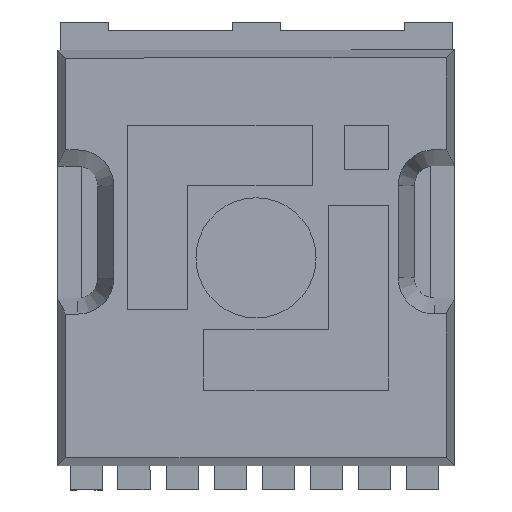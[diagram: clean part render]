
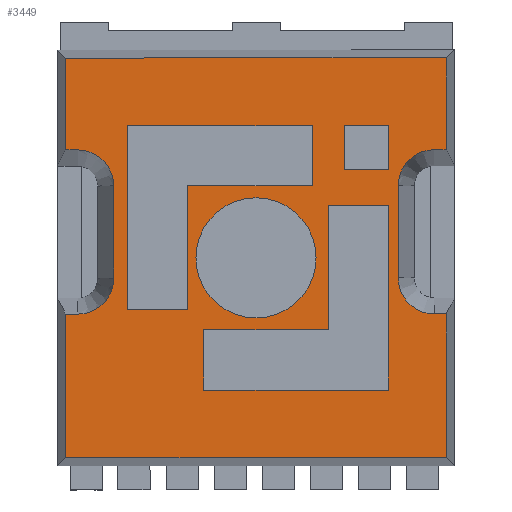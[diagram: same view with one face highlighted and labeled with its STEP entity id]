
A CAD part, top view. The second image highlights one B-rep face of the part: STEP entity #3449.
In plain terms, the highlighted planar face has unit normal (0, 0, 1).
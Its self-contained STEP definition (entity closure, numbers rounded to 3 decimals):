
#3165=CARTESIAN_POINT('',(0.,0.,2.3));
#3166=DIRECTION('',(0.,0.,1.));
#3167=DIRECTION('',(1.,0.,0.));
#3168=AXIS2_PLACEMENT_3D('',#3165,#3166,#3167);
#3169=PLANE('',#3168);
#3170=CARTESIAN_POINT('',(2.2,2.2,2.3));
#3171=VERTEX_POINT('',#3170);
#3172=CARTESIAN_POINT('',(3.3,2.2,2.3));
#3173=VERTEX_POINT('',#3172);
#3174=CARTESIAN_POINT('',(2.2,2.2,2.3));
#3175=DIRECTION('',(1.,0.,-0.));
#3176=VECTOR('',#3175,1.1);
#3177=LINE('',#3174,#3176);
#3178=EDGE_CURVE('',#3171,#3173,#3177,.T.);
#3179=ORIENTED_EDGE('',*,*,#3178,.F.);
#3180=CARTESIAN_POINT('',(2.2,3.3,2.3));
#3181=VERTEX_POINT('',#3180);
#3182=CARTESIAN_POINT('',(2.2,3.3,2.3));
#3183=DIRECTION('',(0.,-1.,0.));
#3184=VECTOR('',#3183,1.1);
#3185=LINE('',#3182,#3184);
#3186=EDGE_CURVE('',#3181,#3171,#3185,.T.);
#3187=ORIENTED_EDGE('',*,*,#3186,.F.);
#3188=CARTESIAN_POINT('',(3.3,3.3,2.3));
#3189=VERTEX_POINT('',#3188);
#3190=CARTESIAN_POINT('',(3.3,3.3,2.3));
#3191=DIRECTION('',(-1.,0.,0.));
#3192=VECTOR('',#3191,1.1);
#3193=LINE('',#3190,#3192);
#3194=EDGE_CURVE('',#3189,#3181,#3193,.T.);
#3195=ORIENTED_EDGE('',*,*,#3194,.F.);
#3196=CARTESIAN_POINT('',(3.3,2.2,2.3));
#3197=DIRECTION('',(0.,1.,0.));
#3198=VECTOR('',#3197,1.1);
#3199=LINE('',#3196,#3198);
#3200=EDGE_CURVE('',#3173,#3189,#3199,.T.);
#3201=ORIENTED_EDGE('',*,*,#3200,.F.);
#3202=EDGE_LOOP('',(#3179,#3187,#3195,#3201));
#3203=FACE_BOUND('',#3202,.T.);
#3204=CARTESIAN_POINT('',(1.5,-0.,2.3));
#3205=VERTEX_POINT('',#3204);
#3206=CARTESIAN_POINT('',(0.,0.,2.3));
#3207=DIRECTION('',(0.,0.,1.));
#3208=DIRECTION('',(1.,0.,-0.));
#3209=AXIS2_PLACEMENT_3D('',#3206,#3207,#3208);
#3210=CIRCLE('',#3209,1.5);
#3211=EDGE_CURVE('',#3205,#3205,#3210,.T.);
#3212=ORIENTED_EDGE('',*,*,#3211,.F.);
#3213=EDGE_LOOP('',(#3212));
#3214=FACE_BOUND('',#3213,.T.);
#3215=CARTESIAN_POINT('',(-3.553,1.796,2.3));
#3216=VERTEX_POINT('',#3215);
#3217=CARTESIAN_POINT('',(-3.55,-0.504,2.3));
#3218=VERTEX_POINT('',#3217);
#3219=CARTESIAN_POINT('',(-3.553,1.796,2.3));
#3220=DIRECTION('',(0.001,-1.,0.));
#3221=VECTOR('',#3220,2.3);
#3222=LINE('',#3219,#3221);
#3223=EDGE_CURVE('',#3216,#3218,#3222,.T.);
#3224=ORIENTED_EDGE('',*,*,#3223,.T.);
#3225=CARTESIAN_POINT('',(-4.449,-1.405,2.3));
#3226=VERTEX_POINT('',#3225);
#3227=CARTESIAN_POINT('',(-4.45,-0.505,2.3));
#3228=DIRECTION('',(-0.,-0.,-1.));
#3229=DIRECTION('',(1.,0.,-0.));
#3230=AXIS2_PLACEMENT_3D('',#3227,#3228,#3229);
#3231=CIRCLE('',#3230,0.9);
#3232=EDGE_CURVE('',#3218,#3226,#3231,.T.);
#3233=ORIENTED_EDGE('',*,*,#3232,.T.);
#3234=CARTESIAN_POINT('',(-4.749,-1.405,2.3));
#3235=VERTEX_POINT('',#3234);
#3236=CARTESIAN_POINT('',(-4.449,-1.405,2.3));
#3237=DIRECTION('',(-1.,-0.001,0.));
#3238=VECTOR('',#3237,0.3);
#3239=LINE('',#3236,#3238);
#3240=EDGE_CURVE('',#3226,#3235,#3239,.T.);
#3241=ORIENTED_EDGE('',*,*,#3240,.T.);
#3242=CARTESIAN_POINT('',(-4.747,-4.993,2.3));
#3243=VERTEX_POINT('',#3242);
#3244=CARTESIAN_POINT('',(-4.749,-1.405,2.3));
#3245=DIRECTION('',(0.001,-1.,0.));
#3246=VECTOR('',#3245,3.587);
#3247=LINE('',#3244,#3246);
#3248=EDGE_CURVE('',#3235,#3243,#3247,.T.);
#3249=ORIENTED_EDGE('',*,*,#3248,.T.);
#3250=CARTESIAN_POINT('',(4.753,-4.987,2.3));
#3251=VERTEX_POINT('',#3250);
#3252=CARTESIAN_POINT('',(-4.747,-4.993,2.3));
#3253=DIRECTION('',(1.,0.001,0.));
#3254=VECTOR('',#3253,9.5);
#3255=LINE('',#3252,#3254);
#3256=EDGE_CURVE('',#3243,#3251,#3255,.T.);
#3257=ORIENTED_EDGE('',*,*,#3256,.T.);
#3258=CARTESIAN_POINT('',(4.751,-1.4,2.3));
#3259=VERTEX_POINT('',#3258);
#3260=CARTESIAN_POINT('',(4.753,-4.987,2.3));
#3261=DIRECTION('',(-0.001,1.,0.));
#3262=VECTOR('',#3261,3.587);
#3263=LINE('',#3260,#3262);
#3264=EDGE_CURVE('',#3251,#3259,#3263,.T.);
#3265=ORIENTED_EDGE('',*,*,#3264,.T.);
#3266=CARTESIAN_POINT('',(4.451,-1.4,2.3));
#3267=VERTEX_POINT('',#3266);
#3268=CARTESIAN_POINT('',(4.751,-1.4,2.3));
#3269=DIRECTION('',(-1.,0.,0.));
#3270=VECTOR('',#3269,0.3);
#3271=LINE('',#3268,#3270);
#3272=EDGE_CURVE('',#3259,#3267,#3271,.T.);
#3273=ORIENTED_EDGE('',*,*,#3272,.T.);
#3274=CARTESIAN_POINT('',(3.551,-0.5,2.3));
#3275=VERTEX_POINT('',#3274);
#3276=CARTESIAN_POINT('',(4.451,-0.5,2.3));
#3277=DIRECTION('',(-0.,-0.,-1.));
#3278=DIRECTION('',(1.,0.,-0.));
#3279=AXIS2_PLACEMENT_3D('',#3276,#3277,#3278);
#3280=CIRCLE('',#3279,0.9);
#3281=EDGE_CURVE('',#3267,#3275,#3280,.T.);
#3282=ORIENTED_EDGE('',*,*,#3281,.T.);
#3283=CARTESIAN_POINT('',(3.551,1.8,2.3));
#3284=VERTEX_POINT('',#3283);
#3285=CARTESIAN_POINT('',(3.551,-0.5,2.3));
#3286=DIRECTION('',(0.,1.,0.));
#3287=VECTOR('',#3286,2.3);
#3288=LINE('',#3285,#3287);
#3289=EDGE_CURVE('',#3275,#3284,#3288,.T.);
#3290=ORIENTED_EDGE('',*,*,#3289,.T.);
#3291=CARTESIAN_POINT('',(4.451,2.7,2.3));
#3292=VERTEX_POINT('',#3291);
#3293=CARTESIAN_POINT('',(4.451,1.8,2.3));
#3294=DIRECTION('',(-0.,-0.,-1.));
#3295=DIRECTION('',(1.,0.,-0.));
#3296=AXIS2_PLACEMENT_3D('',#3293,#3294,#3295);
#3297=CIRCLE('',#3296,0.9);
#3298=EDGE_CURVE('',#3284,#3292,#3297,.T.);
#3299=ORIENTED_EDGE('',*,*,#3298,.T.);
#3300=CARTESIAN_POINT('',(4.749,2.7,2.3));
#3301=VERTEX_POINT('',#3300);
#3302=CARTESIAN_POINT('',(4.451,2.7,2.3));
#3303=DIRECTION('',(1.,0.,-0.));
#3304=VECTOR('',#3303,0.298);
#3305=LINE('',#3302,#3304);
#3306=EDGE_CURVE('',#3292,#3301,#3305,.T.);
#3307=ORIENTED_EDGE('',*,*,#3306,.T.);
#3308=CARTESIAN_POINT('',(4.747,4.993,2.3));
#3309=VERTEX_POINT('',#3308);
#3310=CARTESIAN_POINT('',(4.749,2.7,2.3));
#3311=DIRECTION('',(-0.001,1.,0.));
#3312=VECTOR('',#3311,2.293);
#3313=LINE('',#3310,#3312);
#3314=EDGE_CURVE('',#3301,#3309,#3313,.T.);
#3315=ORIENTED_EDGE('',*,*,#3314,.T.);
#3316=CARTESIAN_POINT('',(-4.753,4.987,2.3));
#3317=VERTEX_POINT('',#3316);
#3318=CARTESIAN_POINT('',(4.747,4.993,2.3));
#3319=DIRECTION('',(-1.,-0.001,0.));
#3320=VECTOR('',#3319,9.5);
#3321=LINE('',#3318,#3320);
#3322=EDGE_CURVE('',#3309,#3317,#3321,.T.);
#3323=ORIENTED_EDGE('',*,*,#3322,.T.);
#3324=CARTESIAN_POINT('',(-4.751,2.695,2.3));
#3325=VERTEX_POINT('',#3324);
#3326=CARTESIAN_POINT('',(-4.753,4.987,2.3));
#3327=DIRECTION('',(0.001,-1.,0.));
#3328=VECTOR('',#3327,2.293);
#3329=LINE('',#3326,#3328);
#3330=EDGE_CURVE('',#3317,#3325,#3329,.T.);
#3331=ORIENTED_EDGE('',*,*,#3330,.T.);
#3332=CARTESIAN_POINT('',(-4.454,2.695,2.3));
#3333=VERTEX_POINT('',#3332);
#3334=CARTESIAN_POINT('',(-4.751,2.695,2.3));
#3335=DIRECTION('',(1.,0.001,0.));
#3336=VECTOR('',#3335,0.298);
#3337=LINE('',#3334,#3336);
#3338=EDGE_CURVE('',#3325,#3333,#3337,.T.);
#3339=ORIENTED_EDGE('',*,*,#3338,.T.);
#3340=CARTESIAN_POINT('',(-4.453,1.795,2.3));
#3341=DIRECTION('',(-0.,-0.,-1.));
#3342=DIRECTION('',(1.,0.,-0.));
#3343=AXIS2_PLACEMENT_3D('',#3340,#3341,#3342);
#3344=CIRCLE('',#3343,0.9);
#3345=EDGE_CURVE('',#3333,#3216,#3344,.T.);
#3346=ORIENTED_EDGE('',*,*,#3345,.T.);
#3347=EDGE_LOOP('',(#3224,#3233,#3241,#3249,#3257,#3265,#3273,#3282,#3290,#3299,#3307,#3315,#3323,#3331,#3339,#3346));
#3348=FACE_BOUND('',#3347,.T.);
#3349=CARTESIAN_POINT('',(-3.2,3.3,2.3));
#3350=VERTEX_POINT('',#3349);
#3351=CARTESIAN_POINT('',(1.4,3.3,2.3));
#3352=VERTEX_POINT('',#3351);
#3353=CARTESIAN_POINT('',(-3.2,3.3,2.3));
#3354=DIRECTION('',(1.,0.,-0.));
#3355=VECTOR('',#3354,4.6);
#3356=LINE('',#3353,#3355);
#3357=EDGE_CURVE('',#3350,#3352,#3356,.T.);
#3358=ORIENTED_EDGE('',*,*,#3357,.T.);
#3359=CARTESIAN_POINT('',(1.4,1.8,2.3));
#3360=VERTEX_POINT('',#3359);
#3361=CARTESIAN_POINT('',(1.4,3.3,2.3));
#3362=DIRECTION('',(0.,-1.,0.));
#3363=VECTOR('',#3362,1.5);
#3364=LINE('',#3361,#3363);
#3365=EDGE_CURVE('',#3352,#3360,#3364,.T.);
#3366=ORIENTED_EDGE('',*,*,#3365,.T.);
#3367=CARTESIAN_POINT('',(-1.7,1.8,2.3));
#3368=VERTEX_POINT('',#3367);
#3369=CARTESIAN_POINT('',(1.4,1.8,2.3));
#3370=DIRECTION('',(-1.,0.,0.));
#3371=VECTOR('',#3370,3.1);
#3372=LINE('',#3369,#3371);
#3373=EDGE_CURVE('',#3360,#3368,#3372,.T.);
#3374=ORIENTED_EDGE('',*,*,#3373,.T.);
#3375=CARTESIAN_POINT('',(-1.7,-1.3,2.3));
#3376=VERTEX_POINT('',#3375);
#3377=CARTESIAN_POINT('',(-1.7,1.8,2.3));
#3378=DIRECTION('',(0.,-1.,0.));
#3379=VECTOR('',#3378,3.1);
#3380=LINE('',#3377,#3379);
#3381=EDGE_CURVE('',#3368,#3376,#3380,.T.);
#3382=ORIENTED_EDGE('',*,*,#3381,.T.);
#3383=CARTESIAN_POINT('',(-3.2,-1.3,2.3));
#3384=VERTEX_POINT('',#3383);
#3385=CARTESIAN_POINT('',(-1.7,-1.3,2.3));
#3386=DIRECTION('',(-1.,0.,0.));
#3387=VECTOR('',#3386,1.5);
#3388=LINE('',#3385,#3387);
#3389=EDGE_CURVE('',#3376,#3384,#3388,.T.);
#3390=ORIENTED_EDGE('',*,*,#3389,.T.);
#3391=CARTESIAN_POINT('',(-3.2,-1.3,2.3));
#3392=DIRECTION('',(0.,1.,0.));
#3393=VECTOR('',#3392,4.6);
#3394=LINE('',#3391,#3393);
#3395=EDGE_CURVE('',#3384,#3350,#3394,.T.);
#3396=ORIENTED_EDGE('',*,*,#3395,.T.);
#3397=EDGE_LOOP('',(#3358,#3366,#3374,#3382,#3390,#3396));
#3398=FACE_BOUND('',#3397,.T.);
#3399=CARTESIAN_POINT('',(1.8,1.3,2.3));
#3400=VERTEX_POINT('',#3399);
#3401=CARTESIAN_POINT('',(3.3,1.3,2.3));
#3402=VERTEX_POINT('',#3401);
#3403=CARTESIAN_POINT('',(1.8,1.3,2.3));
#3404=DIRECTION('',(1.,-0.,0.));
#3405=VECTOR('',#3404,1.5);
#3406=LINE('',#3403,#3405);
#3407=EDGE_CURVE('',#3400,#3402,#3406,.T.);
#3408=ORIENTED_EDGE('',*,*,#3407,.T.);
#3409=CARTESIAN_POINT('',(3.3,-3.3,2.3));
#3410=VERTEX_POINT('',#3409);
#3411=CARTESIAN_POINT('',(3.3,1.3,2.3));
#3412=DIRECTION('',(0.,-1.,0.));
#3413=VECTOR('',#3412,4.6);
#3414=LINE('',#3411,#3413);
#3415=EDGE_CURVE('',#3402,#3410,#3414,.T.);
#3416=ORIENTED_EDGE('',*,*,#3415,.T.);
#3417=CARTESIAN_POINT('',(-1.3,-3.3,2.3));
#3418=VERTEX_POINT('',#3417);
#3419=CARTESIAN_POINT('',(3.3,-3.3,2.3));
#3420=DIRECTION('',(-1.,0.,0.));
#3421=VECTOR('',#3420,4.6);
#3422=LINE('',#3419,#3421);
#3423=EDGE_CURVE('',#3410,#3418,#3422,.T.);
#3424=ORIENTED_EDGE('',*,*,#3423,.T.);
#3425=CARTESIAN_POINT('',(-1.3,-1.8,2.3));
#3426=VERTEX_POINT('',#3425);
#3427=CARTESIAN_POINT('',(-1.3,-3.3,2.3));
#3428=DIRECTION('',(-0.,1.,0.));
#3429=VECTOR('',#3428,1.5);
#3430=LINE('',#3427,#3429);
#3431=EDGE_CURVE('',#3418,#3426,#3430,.T.);
#3432=ORIENTED_EDGE('',*,*,#3431,.T.);
#3433=CARTESIAN_POINT('',(1.8,-1.8,2.3));
#3434=VERTEX_POINT('',#3433);
#3435=CARTESIAN_POINT('',(-1.3,-1.8,2.3));
#3436=DIRECTION('',(1.,0.,-0.));
#3437=VECTOR('',#3436,3.1);
#3438=LINE('',#3435,#3437);
#3439=EDGE_CURVE('',#3426,#3434,#3438,.T.);
#3440=ORIENTED_EDGE('',*,*,#3439,.T.);
#3441=CARTESIAN_POINT('',(1.8,-1.8,2.3));
#3442=DIRECTION('',(0.,1.,0.));
#3443=VECTOR('',#3442,3.1);
#3444=LINE('',#3441,#3443);
#3445=EDGE_CURVE('',#3434,#3400,#3444,.T.);
#3446=ORIENTED_EDGE('',*,*,#3445,.T.);
#3447=EDGE_LOOP('',(#3408,#3416,#3424,#3432,#3440,#3446));
#3448=FACE_BOUND('',#3447,.T.);
#3449=ADVANCED_FACE('',(#3203,#3214,#3348,#3398,#3448),#3169,.T.);
